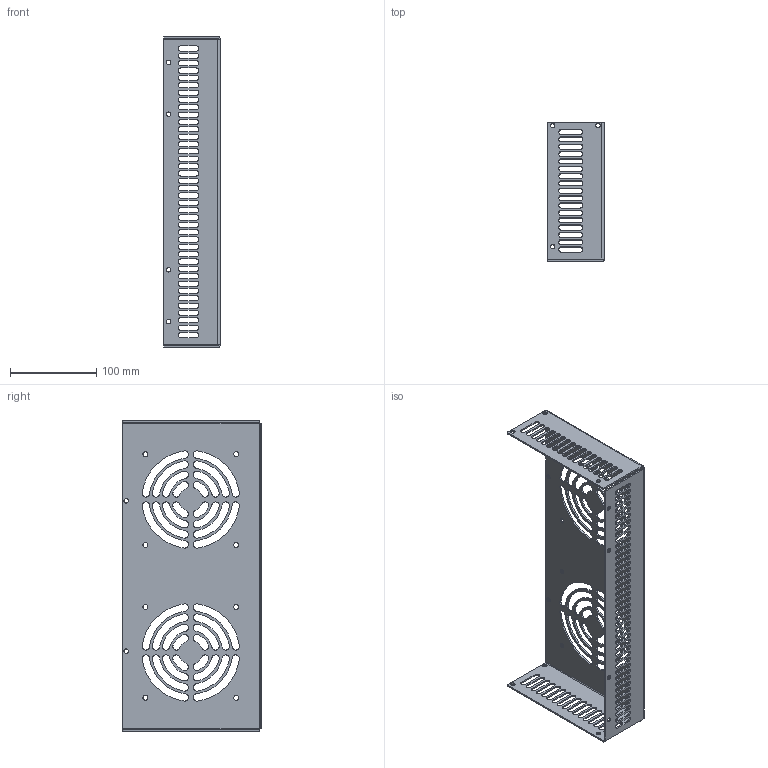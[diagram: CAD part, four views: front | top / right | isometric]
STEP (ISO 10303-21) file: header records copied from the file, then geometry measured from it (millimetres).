
FILE_DESCRIPTION (( 'STEP AP214' ), '1' );
FILE_NAME ('风扇面板-手持盾.STEP', '2026-09-29T03:50:35', ( '微软用户' ), ( '微软中国' ), 'SwSTEP 2.0', 'SolidWorks 2016', '' );
FILE_SCHEMA (( 'AUTOMOTIVE_DESIGN' ));
Length unit declared in the file: millimetre
Products named in the file (1): 瑞圮醱啣-忒厥嗎
Bounding box: 65.5 x 161.3 x 359.6 mm (x, y, z)
Volume: 136433.1 mm3; surface area: 168835.9 mm2
Topology: 1 solids, 1 shells, 602 faces, 1776 edges, 1176 vertices
Faces by surface type: cylinder 430, plane 172
Entity records: 21160 total; most frequent: DIRECTION 3842, CARTESIAN_POINT 3555, ORIENTED_EDGE 3552, EDGE_CURVE 1776, AXIS2_PLACEMENT_3D 1463, VERTEX_POINT 1176, VECTOR 916, LINE 916
